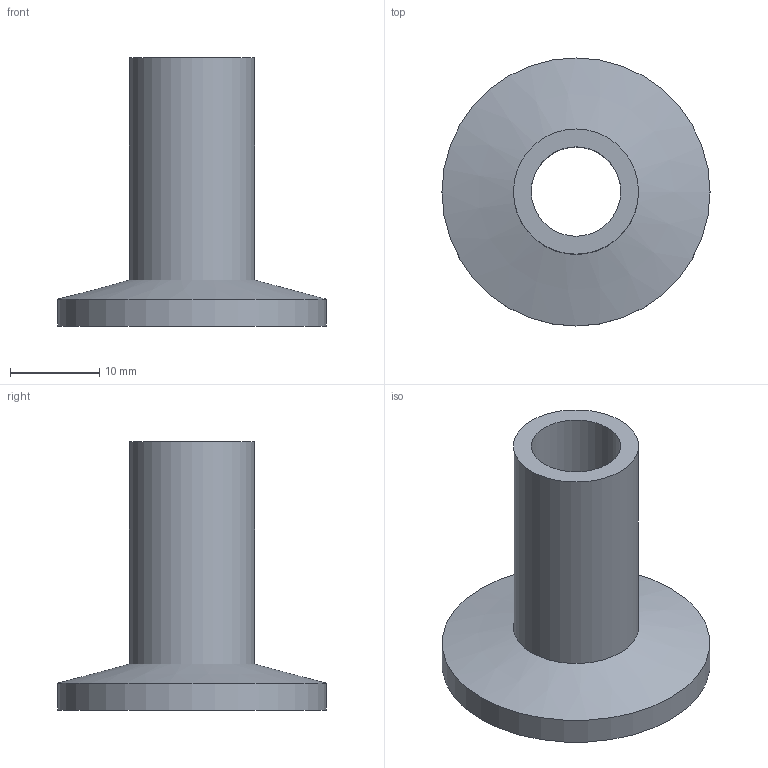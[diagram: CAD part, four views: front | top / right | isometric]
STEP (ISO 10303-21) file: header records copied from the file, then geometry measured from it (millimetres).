
FILE_DESCRIPTION( ( 'Unknown' ), '1' );
FILE_NAME( 'X:/Daten ( aktueller Bestand )/Projekte und Zeichnungen/Solid Edge/STP-Dateien/KF/1521-34.stp', 'Unknown', ( 'Unknown' ), ( 'Unknown' ), 'PSStep 14.0', 'Unknown', ' ' );
FILE_SCHEMA( ( 'AUTOMOTIVE_DESIGN { 1 0 10303 214 1 1 1 1 }' ) );
Length unit declared in the file: millimetre
Products named in the file (2): Assem1; 1_29
Assembly tree (1 placements, depth 2):
  Assem1
    1_29
Bounding box: 30 x 30 x 30 mm (x, y, z)
Volume: 4345.6 mm3; surface area: 3611.9 mm2
Topology: 1 solids, 1 shells, 8 faces, 13 edges, 8 vertices
Faces by surface type: cylinder 4, plane 3, cone 1
Full cylindrical faces by diameter (mm): 10 x1, 12.2 x1, 14 x1, 30 x1
Entity records: 270 total; most frequent: DIRECTION 36, CARTESIAN_POINT 26, AXIS2_PLACEMENT_3D 18, EDGE_LOOP 16, ORIENTED_EDGE 16, FACE_OUTER_BOUND 12, STYLED_ITEM 8, PRESENTATION_STYLE_ASSIGNMENT 8
